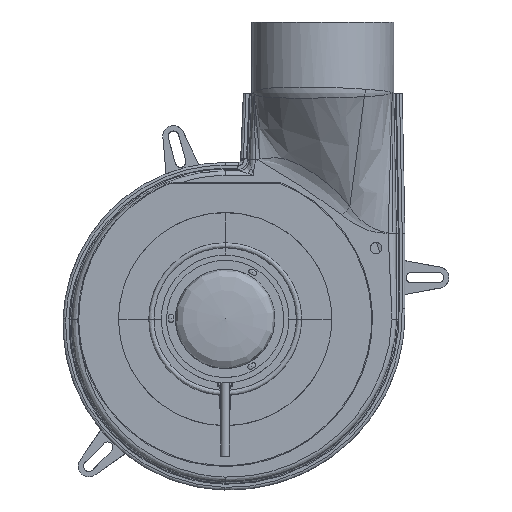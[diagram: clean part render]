
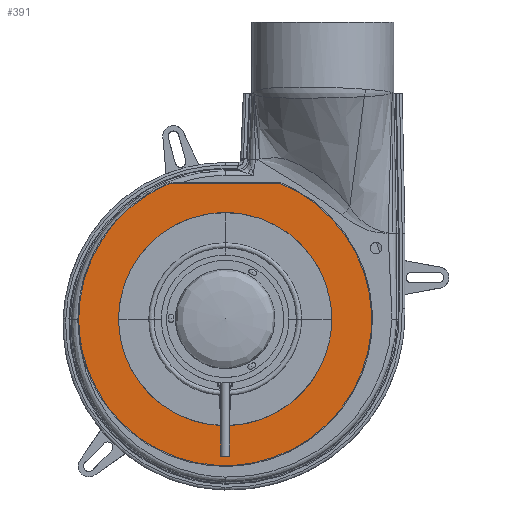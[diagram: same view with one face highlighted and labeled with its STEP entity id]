
A CAD part, top view. The second image highlights one B-rep face of the part: STEP entity #391.
In plain terms, the highlighted planar face has unit normal (0, 0, 1).
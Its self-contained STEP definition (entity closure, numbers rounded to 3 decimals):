
#391=ADVANCED_FACE('',(#884),#7910,.T.);
#884=FACE_OUTER_BOUND('',#1393,.T.);
#1393=EDGE_LOOP('',(#2256,#2257,#2258));
#2256=ORIENTED_EDGE('',*,*,#4551,.F.);
#2257=ORIENTED_EDGE('',*,*,#4547,.F.);
#2258=ORIENTED_EDGE('',*,*,#4544,.F.);
#4544=EDGE_CURVE('',#7065,#7066,#6309,.T.);
#4547=EDGE_CURVE('',#7066,#7067,#5747,.T.);
#4551=EDGE_CURVE('',#7067,#7065,#5749,.T.);
#5747=(
BOUNDED_CURVE()
B_SPLINE_CURVE(2,(#12208,#12209,#12210,#12211,#12212,#12213,#12214),
 .UNSPECIFIED.,.F.,.F.)
B_SPLINE_CURVE_WITH_KNOTS((3,2,2,3),(162.539,259.181,
388.772,518.363),.UNSPECIFIED.)
CURVE()
GEOMETRIC_REPRESENTATION_ITEM()
RATIONAL_B_SPLINE_CURVE((1.,0.829,1.,0.707,1.,0.707,
1.))
REPRESENTATION_ITEM('')
);
#5749=(
BOUNDED_CURVE()
B_SPLINE_CURVE(2,(#12230,#12231,#12232),.UNSPECIFIED.,.F.,.F.)
B_SPLINE_CURVE_WITH_KNOTS((3,3),(0.,96.643),.UNSPECIFIED.)
CURVE()
GEOMETRIC_REPRESENTATION_ITEM()
RATIONAL_B_SPLINE_CURVE((1.,0.829,1.))
REPRESENTATION_ITEM('')
);
#6309=B_SPLINE_CURVE_WITH_KNOTS('',3,(#12198,#12199,#12200,#12201),
 .UNSPECIFIED.,.F.,.F.,(4,4),(34.915,96.685),
 .UNSPECIFIED.);
#7065=VERTEX_POINT('',#12192);
#7066=VERTEX_POINT('',#12193);
#7067=VERTEX_POINT('',#12194);
#7910=PLANE('',#8288);
#8288=AXIS2_PLACEMENT_3D('',#12105,#8552,$);
#8552=DIRECTION('',(0.,0.,1.));
#12105=CARTESIAN_POINT('',(82.5,-82.5,-13.25));
#12192=CARTESIAN_POINT('',(-30.885,76.501,-13.25));
#12193=CARTESIAN_POINT('',(30.885,76.501,-13.25));
#12194=CARTESIAN_POINT('',(-82.5,0.,-13.25));
#12198=CARTESIAN_POINT('',(-30.885,76.501,-13.25));
#12199=CARTESIAN_POINT('',(-10.295,76.501,-13.25));
#12200=CARTESIAN_POINT('',(10.295,76.501,-13.25));
#12201=CARTESIAN_POINT('',(30.885,76.501,-13.25));
#12208=CARTESIAN_POINT('',(30.885,76.501,-13.25));
#12209=CARTESIAN_POINT('',(82.5,55.663,-13.25));
#12210=CARTESIAN_POINT('',(82.5,0.,-13.25));
#12211=CARTESIAN_POINT('',(82.5,-82.5,-13.25));
#12212=CARTESIAN_POINT('',(0.,-82.5,-13.25));
#12213=CARTESIAN_POINT('',(-82.5,-82.5,-13.25));
#12214=CARTESIAN_POINT('',(-82.5,0.,-13.25));
#12230=CARTESIAN_POINT('',(-82.5,0.,-13.25));
#12231=CARTESIAN_POINT('',(-82.5,55.663,-13.25));
#12232=CARTESIAN_POINT('',(-30.885,76.501,-13.25));
